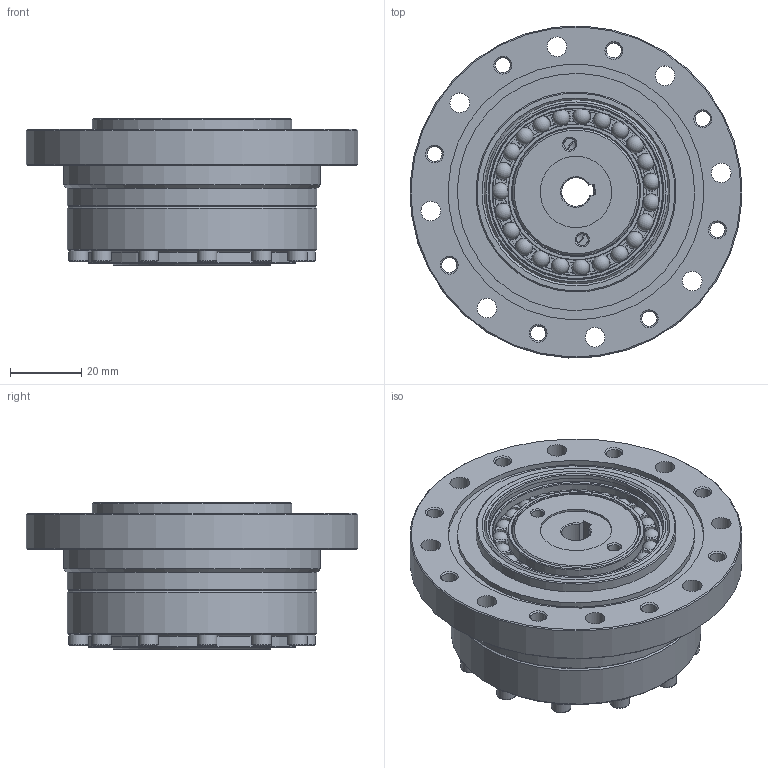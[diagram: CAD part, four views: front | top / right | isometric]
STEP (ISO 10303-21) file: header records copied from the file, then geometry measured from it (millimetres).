
FILE_DESCRIPTION(/* description */ (''),/* implementation_level */ '2;1');
FILE_NAME(/* name */ 'FSG-20-XX-U-I_孔径8__stp.prt.stp',/* time_stamp */ '2025-02-05T14:04:08+08:00',/* author */ (''),/* organization */ (''),/* preprocessor_version */ 'ST-DEVELOPER v16.7',/* originating_system */ 'SIEMENS PLM Software NX 12.0',/* authorisation */ '');
FILE_SCHEMA (('AUTOMOTIVE_DESIGN { 1 0 10303 214 3 1 1 1 }'));
Length unit declared in the file: millimetre
Products named in the file (15): EB364907-20KCH-46318; EB364907-20KCH-04319; EB364907-20KCH-02320; EB364907-20KCH-01321; TC-45x55x4; O型密封圈56.6-54.4-0.75; GB-T70.1-2000,M3x16324; GB-T70.1-2000,M5x12325; 柔轮垫块LSS-20; 发生器FSG-20-XXDL直径8_stp327; 刚轮FSG-20_stp; 柔轮FSG-20_stp329; EB364907-20KCH_stp330; 交叉轴承LSS-20; FSG-20-XX-U-I_孔径8__stp
Assembly tree (32 placements, depth 3):
  FSG-20-XX-U-I_孔径8__stp
    柔轮FSG-20_stp329
    刚轮FSG-20_stp
    交叉轴承LSS-20
      TC-45x55x4
    EB364907-20KCH_stp330
      EB364907-20KCH-01321
      EB364907-20KCH-02320
      EB364907-20KCH-04319
      EB364907-20KCH-46318
    发生器FSG-20-XXDL直径8_stp327
    柔轮垫块LSS-20
    GB-T70.1-2000,M5x12325  x8
    GB-T70.1-2000,M3x16324  x12
    O型密封圈56.6-54.4-0.75
Bounding box: 92.91 x 92.91 x 41 mm (x, y, z)
Volume: 126772.6 mm3; surface area: 81574.7 mm2
Topology: 54 solids, 54 shells, 1077 faces, 2321 edges, 1353 vertices
Faces by surface type: plane 398, cone 328, cylinder 216, torus 110, sphere 23, bspline 2
Full cylindrical faces by diameter (mm): 2.05 x2, 2.5 x12, 2.874 x12, 3.3 x2, 3.5 x12, 4.2 x16, 4.826 x8, 5 x8, 5.5 x36, 8.5 x8, 10 x1, 14 x3, 20 x1, 22 x1, 32 x1, 33.7 x1, 34 x1, 35.56 x2, 38.14 x2, 39.6 x1, 40.2 x1, 43 x2, 44.5 x1, 45 x2, 45.4 x2, 46.71 x2, 49.073 x2, 49.6 x2, 49.864 x1, 50.8 x2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
Entity records: 18866 total; most frequent: CARTESIAN_POINT 4583, DIRECTION 2882, ORIENTED_EDGE 2092, AXIS2_PLACEMENT_3D 1326, EDGE_CURVE 1046, EDGE_LOOP 990, VERTEX_POINT 807, FACE_BOUND 737
